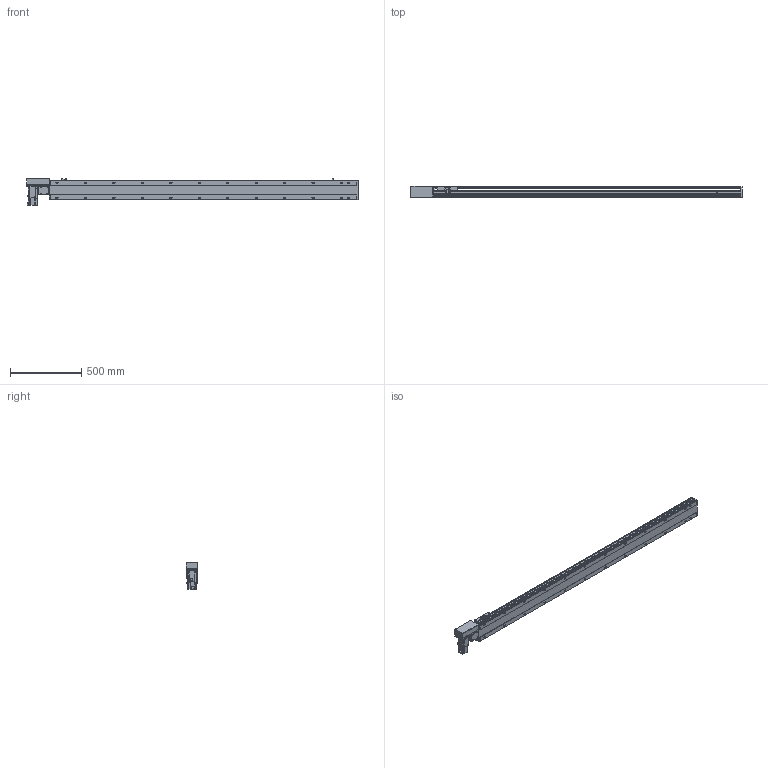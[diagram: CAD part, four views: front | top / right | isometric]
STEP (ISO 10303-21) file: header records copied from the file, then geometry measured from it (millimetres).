
FILE_DESCRIPTION( ( 'STEP AP214' ), '1' );
FILE_NAME( 'x:/temp/worker_27/temp/exporttempdir_6708_379_K5dpe/format_0/PBS140-P40-S1900-R-T40-C1-N(0).stp', '2022-06-06T01:29:11', ( 'License CC BY-ND 4.0' ), ( 'CADENAS' ), ' ', 'PARTsolutions', ' ' );
FILE_SCHEMA( ( 'AUTOMOTIVE_DESIGN { 1 0 10303 214 1 1 1 1 }' ) );
Length unit declared in the file: millimetre
Products named in the file (7): PBS140-P40-S1900-R-T40-C1-N(0); _PBS140-S1900()_body; _PBS140T-R_motors; _T40-p1; _PBS140_sliser; _PBS140_plant; _PBS140_sensor
Assembly tree (8 placements, depth 2):
  PBS140-P40-S1900-R-T40-C1-N(0)
    _PBS140-S1900()_body
    _PBS140T-R_motors
    _T40-p1
    _PBS140_sliser
    _PBS140_plant
    _PBS140_sensor  x3
Bounding box: 2333 x 80.5 x 189.7 mm (x, y, z)
Volume: 10283862.7 mm3; surface area: 1764557.4 mm2
Topology: 8 solids, 8 shells, 1139 faces, 2996 edges, 1957 vertices
Faces by surface type: plane 716, cylinder 363, cone 50, sphere 8, torus 2
Full cylindrical faces by diameter (mm): 3.242 x4, 4 x2, 4.134 x4, 4.4 x8, 4.5 x2, 4.8 x4, 4.917 x32, 5.5 x7, 6 x2, 7 x26, 7.5 x8, 8 x12, 8.5 x4, 10.5 x24, 14 x1, 30 x2, 50 x2
Entity records: 41857 total; most frequent: CARTESIAN_POINT 6923, DIRECTION 5477, ORIENTED_EDGE 5152, EDGE_CURVE 2576, AXIS2_PLACEMENT_3D 1927, VERTEX_POINT 1797, LINE 1623, VECTOR 1623
